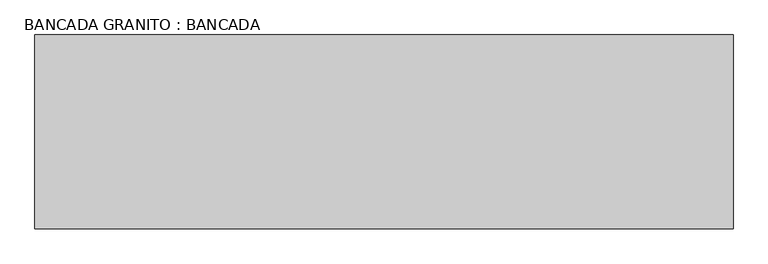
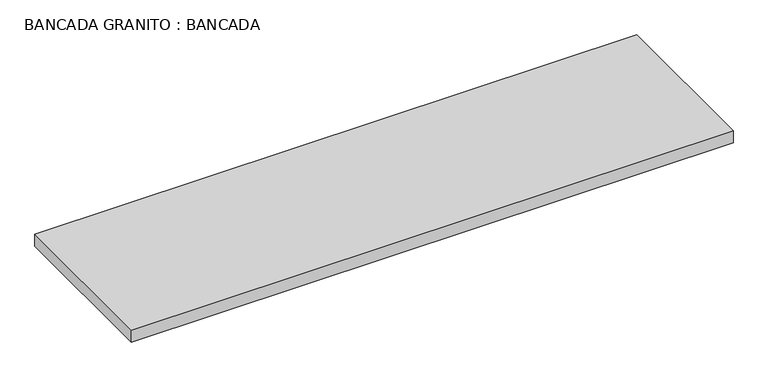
"""IFC4 building model written with IfcOpenShell, lengths in millimetres: furniture geometry, BANCADA GRANITO : BANCADA."""

from ifc_helpers import new_model, si_unit, frame, origin, place, context, project, spatial, polyline, outline, extrude, source, transform, mapped, element, save


def bancada_granito_bancada_e0e4120f(model_context):
    return source(origin(), model_context, "Body", "SweptSolid", [
        extrude(outline(polyline([(472.5377049, 0.0), (472.5377049, -500.0), (-1327.4622951, -500.0), (-1327.4622951, 0.0), (472.5377049, 0.0)])), frame((0.0, 0.0, 811.9), z_axis=(0.0, 0.0, 1.0), x_axis=(1.0, 0.0, 0.0)), (0.0, 0.0, 1.0), 38.1),
    ])


if __name__ == "__main__":
    model = new_model("IFC4")
    model_context = context("Model", 3, world=origin())
    ifc_project = project(units=[si_unit("LENGTHUNIT", "METRE", prefix="MILLI")], contexts=[model_context])
    site = spatial("IfcSite", under=ifc_project)
    building = spatial("IfcBuilding", under=site)
    placement = place(None, origin())
    bancada_granito_bancada_shape = bancada_granito_bancada_e0e4120f(model_context)
    element("IfcFurniture", 1, ObjectType="BANCADA GRANITO : BANCADA", at=placement, inside=building, context=model_context, shape_type="MappedRepresentation", body=[
        mapped(bancada_granito_bancada_shape, transform((0.0, 0.0, 0.0), x_axis=(1.0, 0.0, 0.0), y_axis=(0.0, 1.0, 0.0), z_axis=(0.0, 0.0, 1.0))),
    ])
    save(model, "model.ifc")
